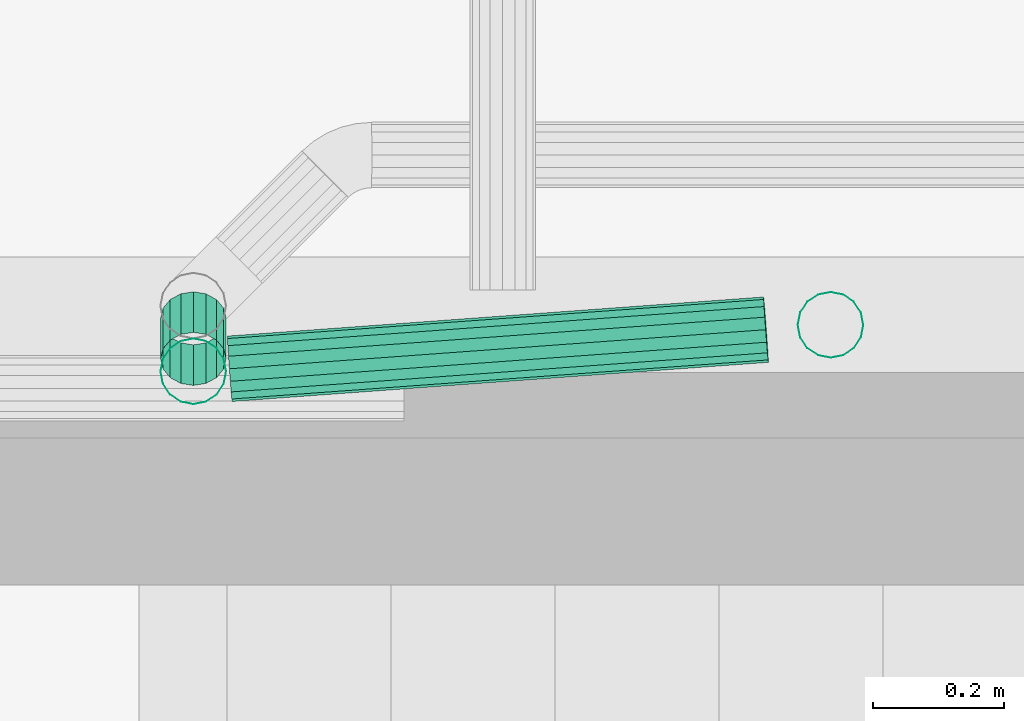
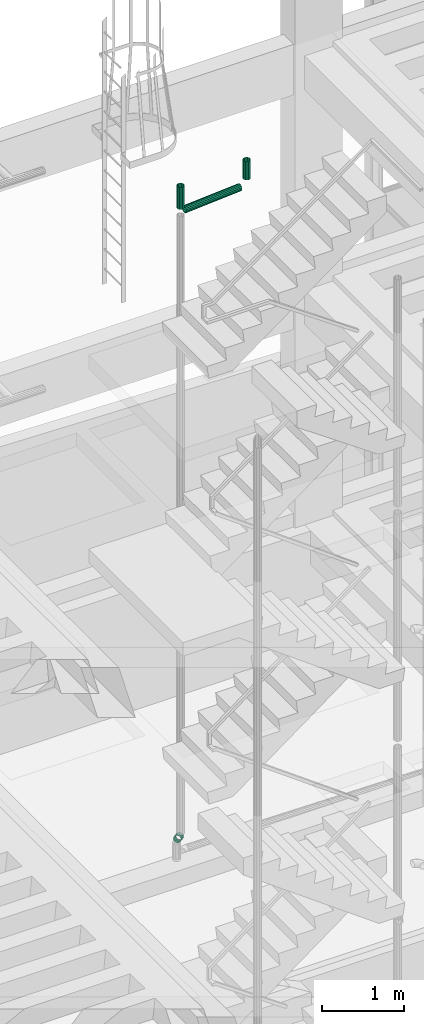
# One storey, part 86 of 108: 4 flow segments.
"""IFC2X3 building model written with IfcOpenShell, lengths in metres."""

from ifc_helpers import new_model, entity, si_unit, converted_unit, derived_unit, money_unit, direction, frame, origin_with_axes, place, context, subcontext, project, spatial, faceted_brep, material, type_object, element, save


model = new_model("IFC2X3")

# Units and contexts
model_context = context("Model", 3, precision=1e-05, world=origin_with_axes(), true_north=direction((0.0, 1.0)))
body_context = subcontext(model_context, "Body", "Model", "MODEL_VIEW", scale=1.0)
ifc_project = project(units=[si_unit("LENGTHUNIT", "METRE"), si_unit("AREAUNIT", "SQUARE_METRE"), si_unit("VOLUMEUNIT", "CUBIC_METRE"), si_unit("ABSORBEDDOSEUNIT", "GRAY"), si_unit("AMOUNTOFSUBSTANCEUNIT", "MOLE"), si_unit("DOSEEQUIVALENTUNIT", "SIEVERT"), si_unit("ELECTRICCAPACITANCEUNIT", "FARAD"), si_unit("ELECTRICCHARGEUNIT", "COULOMB"), si_unit("ELECTRICCONDUCTANCEUNIT", "SIEMENS"), si_unit("ELECTRICCURRENTUNIT", "AMPERE"), si_unit("ELECTRICRESISTANCEUNIT", "OHM"), si_unit("ELECTRICVOLTAGEUNIT", "VOLT"), si_unit("ENERGYUNIT", "JOULE"), si_unit("FORCEUNIT", "NEWTON"), si_unit("FREQUENCYUNIT", "HERTZ"), si_unit("ILLUMINANCEUNIT", "LUX"), si_unit("INDUCTANCEUNIT", "HENRY"), si_unit("LUMINOUSFLUXUNIT", "LUMEN"), si_unit("LUMINOUSINTENSITYUNIT", "CANDELA"), si_unit("MAGNETICFLUXDENSITYUNIT", "TESLA"), si_unit("MAGNETICFLUXUNIT", "WEBER"), si_unit("MASSUNIT", "GRAM"), converted_unit("PLANEANGLEUNIT", "degree", entity("IfcReal", 0.0174532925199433), si_unit("PLANEANGLEUNIT", "RADIAN"), dimensions=[0, 0, 0, 0, 0, 0, 0]), si_unit("POWERUNIT", "WATT"), si_unit("PRESSUREUNIT", "PASCAL"), si_unit("RADIOACTIVITYUNIT", "BECQUEREL"), si_unit("SOLIDANGLEUNIT", "STERADIAN"), si_unit("THERMODYNAMICTEMPERATUREUNIT", "KELVIN"), si_unit("TIMEUNIT", "SECOND"), derived_unit("ACCELERATIONUNIT", [(si_unit("LENGTHUNIT", "METRE"), 1), (si_unit("TIMEUNIT", "SECOND"), -2)]), derived_unit("ANGULARVELOCITYUNIT", [(converted_unit("PLANEANGLEUNIT", "degree", entity("IfcReal", 0.0174532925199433), si_unit("PLANEANGLEUNIT", "RADIAN"), dimensions=[0, 0, 0, 0, 0, 0, 0]), 1), (si_unit("TIMEUNIT", "SECOND"), -1)]), derived_unit("CURVATUREUNIT", [(converted_unit("PLANEANGLEUNIT", "degree", entity("IfcReal", 0.0174532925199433), si_unit("PLANEANGLEUNIT", "RADIAN"), dimensions=[0, 0, 0, 0, 0, 0, 0]), 1), (si_unit("LENGTHUNIT", "METRE"), -1)]), derived_unit("DYNAMICVISCOSITYUNIT", [(si_unit("PRESSUREUNIT", "PASCAL"), 1), (si_unit("TIMEUNIT", "SECOND"), 1)]), derived_unit("HEATFLUXDENSITYUNIT", [(si_unit("POWERUNIT", "WATT"), 1), (si_unit("LENGTHUNIT", "METRE"), -2)]), derived_unit("HEATINGVALUEUNIT", [(si_unit("ENERGYUNIT", "JOULE"), 1), (si_unit("MASSUNIT", "GRAM"), -1)]), derived_unit("INTEGERCOUNTRATEUNIT", [(si_unit("TIMEUNIT", "SECOND"), -1)]), derived_unit("IONCONCENTRATIONUNIT", [(si_unit("MASSUNIT", "GRAM"), 1), (si_unit("VOLUMEUNIT", "CUBIC_METRE"), -1)]), derived_unit("ISOTHERMALMOISTURECAPACITYUNIT", [(si_unit("VOLUMEUNIT", "CUBIC_METRE"), 1), (si_unit("MASSUNIT", "GRAM"), -1)]), derived_unit("KINEMATICVISCOSITYUNIT", [(si_unit("AREAUNIT", "SQUARE_METRE"), 1), (si_unit("TIMEUNIT", "SECOND"), -1)]), derived_unit("LINEARFORCEUNIT", [(si_unit("FORCEUNIT", "NEWTON"), 1), (si_unit("LENGTHUNIT", "METRE"), -1)]), derived_unit("LINEARMOMENTUNIT", [(si_unit("FORCEUNIT", "NEWTON"), 1), (si_unit("LENGTHUNIT", "METRE"), -1)]), derived_unit("LINEARSTIFFNESSUNIT", [(si_unit("FORCEUNIT", "NEWTON"), 1), (si_unit("LENGTHUNIT", "METRE"), -1)]), derived_unit("LINEARVELOCITYUNIT", [(si_unit("LENGTHUNIT", "METRE"), 1), (si_unit("TIMEUNIT", "SECOND"), -1)]), derived_unit("LUMINOUSINTENSITYDISTRIBUTIONUNIT", [(si_unit("LUMINOUSINTENSITYUNIT", "CANDELA"), 1), (si_unit("LUMINOUSFLUXUNIT", "LUMEN"), -1)]), derived_unit("MASSDENSITYUNIT", [(si_unit("MASSUNIT", "GRAM"), 1), (si_unit("VOLUMEUNIT", "CUBIC_METRE"), -1)]), derived_unit("MASSFLOWRATEUNIT", [(si_unit("MASSUNIT", "GRAM"), 1), (si_unit("TIMEUNIT", "SECOND"), -1)]), derived_unit("MASSPERLENGTHUNIT", [(si_unit("MASSUNIT", "GRAM"), 1), (si_unit("LENGTHUNIT", "METRE"), -1)]), derived_unit("MODULUSOFELASTICITYUNIT", [(si_unit("FORCEUNIT", "NEWTON"), 1), (si_unit("AREAUNIT", "SQUARE_METRE"), -1)]), derived_unit("MODULUSOFLINEARSUBGRADEREACTIONUNIT", [(si_unit("FORCEUNIT", "NEWTON"), 1), (si_unit("LENGTHUNIT", "METRE"), -2)]), derived_unit("MODULUSOFROTATIONALSUBGRADEREACTIONUNIT", [(si_unit("FORCEUNIT", "NEWTON"), 1), (si_unit("LENGTHUNIT", "METRE"), 1)]), derived_unit("MODULUSOFSUBGRADEREACTIONUNIT", [(si_unit("FORCEUNIT", "NEWTON"), 1), (si_unit("VOLUMEUNIT", "CUBIC_METRE"), -1)]), derived_unit("MOISTUREDIFFUSIVITYUNIT", [(si_unit("VOLUMEUNIT", "CUBIC_METRE"), 1), (si_unit("TIMEUNIT", "SECOND"), -1)]), derived_unit("MOLECULARWEIGHTUNIT", [(si_unit("MASSUNIT", "GRAM"), 1), (si_unit("AMOUNTOFSUBSTANCEUNIT", "MOLE"), -1)]), derived_unit("PLANARFORCEUNIT", [(si_unit("FORCEUNIT", "NEWTON"), 1), (si_unit("LENGTHUNIT", "METRE"), -2)]), derived_unit("ROTATIONALFREQUENCYUNIT", [(si_unit("TIMEUNIT", "SECOND"), -1)]), derived_unit("ROTATIONALMASSUNIT", [(si_unit("MASSUNIT", "GRAM"), 1), (si_unit("LENGTHUNIT", "METRE"), 2)]), derived_unit("ROTATIONALSTIFFNESSUNIT", [(si_unit("FORCEUNIT", "NEWTON"), 1), (si_unit("LENGTHUNIT", "METRE"), 1), (converted_unit("PLANEANGLEUNIT", "degree", entity("IfcReal", 0.0174532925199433), si_unit("PLANEANGLEUNIT", "RADIAN"), dimensions=[0, 0, 0, 0, 0, 0, 0]), -1)]), derived_unit("SECTIONAREAINTEGRALUNIT", [(si_unit("LENGTHUNIT", "METRE"), 5)]), derived_unit("SECTIONMODULUSUNIT", [(si_unit("LENGTHUNIT", "METRE"), 3)]), derived_unit("SHEARMODULUSUNIT", [(si_unit("FORCEUNIT", "NEWTON"), 1), (si_unit("AREAUNIT", "SQUARE_METRE"), -1)]), derived_unit("SOUNDPOWERUNIT", [(si_unit("ENERGYUNIT", "JOULE"), 1), (si_unit("TIMEUNIT", "SECOND"), -1)]), derived_unit("SPECIFICHEATCAPACITYUNIT", [(si_unit("FORCEUNIT", "NEWTON"), 1), (si_unit("MASSUNIT", "GRAM"), -1), (si_unit("THERMODYNAMICTEMPERATUREUNIT", "KELVIN"), -1)]), derived_unit("TEMPERATUREGRADIENTUNIT", [(si_unit("THERMODYNAMICTEMPERATUREUNIT", "KELVIN"), 1), (si_unit("LENGTHUNIT", "METRE"), -1)]), derived_unit("THERMALADMITTANCEUNIT", [(si_unit("POWERUNIT", "WATT"), 1), (si_unit("AREAUNIT", "SQUARE_METRE"), -1), (si_unit("THERMODYNAMICTEMPERATUREUNIT", "KELVIN"), -1)]), derived_unit("THERMALCONDUCTANCEUNIT", [(si_unit("POWERUNIT", "WATT"), 1), (si_unit("LENGTHUNIT", "METRE"), -1), (si_unit("THERMODYNAMICTEMPERATUREUNIT", "KELVIN"), -1)]), derived_unit("THERMALEXPANSIONCOEFFICIENTUNIT", [(si_unit("THERMODYNAMICTEMPERATUREUNIT", "KELVIN"), -1)]), derived_unit("THERMALRESISTANCEUNIT", [(si_unit("AREAUNIT", "SQUARE_METRE"), 1), (si_unit("POWERUNIT", "WATT"), -1)]), derived_unit("THERMALTRANSMITTANCEUNIT", [(si_unit("POWERUNIT", "WATT"), 1), (si_unit("AREAUNIT", "SQUARE_METRE"), -1), (si_unit("THERMODYNAMICTEMPERATUREUNIT", "KELVIN"), -1)]), derived_unit("TORQUEUNIT", [(si_unit("FORCEUNIT", "NEWTON"), 1), (si_unit("LENGTHUNIT", "METRE"), 1)]), derived_unit("VAPORPERMEABILITYUNIT", [(si_unit("MASSUNIT", "GRAM"), 1), (si_unit("TIMEUNIT", "SECOND"), -1)]), derived_unit("VOLUMETRICFLOWRATEUNIT", [(si_unit("VOLUMEUNIT", "CUBIC_METRE"), 1), (si_unit("TIMEUNIT", "SECOND"), -1)]), derived_unit("WARPINGCONSTANTUNIT", [(si_unit("LENGTHUNIT", "METRE"), 6)]), derived_unit("WARPINGMOMENTUNIT", [(si_unit("FORCEUNIT", "NEWTON"), 1), (si_unit("LENGTHUNIT", "METRE"), 2)]), money_unit("GBP")], contexts=[model_context])

# Site, building, storey
site_placement = place(None, origin_with_axes())
site = spatial("IfcSite", under=ifc_project, at=site_placement, Name="Site", CompositionType="ELEMENT")
building_placement = place(site_placement, origin_with_axes())
building = spatial("IfcBuilding", under=site, at=building_placement, Name="Building01", CompositionType="ELEMENT")
storey_placement = place(building_placement, origin_with_axes())
storey = spatial("IfcBuildingStorey", under=building, at=storey_placement, Name="GF", CompositionType="ELEMENT", Elevation=0.0)

# Flow segments
ifc_material = material(Name="M_BSUK_ColdWater")
pipe_segment_type = type_object("IfcPipeSegmentType", Name="M-BmpStraightpipe-DefaultPipe", PredefinedType="RIGIDSEGMENT")
flow_segment_1_placement = place(storey_placement, frame((13.75, 9.043892, 14.994808), z_axis=(1.0, 0.0, 0.0), x_axis=(0.0, 0.0, -1.0)))
element("IfcFlowSegment", 1, at=flow_segment_1_placement, inside=storey, type_object=pipe_segment_type, material=ifc_material, Name="M-BmpStraightpipe-DefaultPipe", ObjectType="M-BmpStraightpipe-DefaultPipe", context=body_context, shape_type="Brep", body=[
    faceted_brep([(0.272077, 0.0, -0.05), (0.0, 0.0, -0.05), (0.0, 0.019134, -0.046194), (0.272077, 0.019134, -0.046194), (0.0, 0.035355, -0.035355), (0.272077, 0.035355, -0.035355), (0.0, 0.046194, -0.019134), (0.272077, 0.046194, -0.019134), (0.0, 0.05, 0.0), (0.272077, 0.05, 0.0), (0.0, 0.046194, 0.019134), (0.272077, 0.046194, 0.019134), (0.0, 0.035355, 0.035355), (0.272077, 0.035355, 0.035355), (0.0, 0.019134, 0.046194), (0.272077, 0.019134, 0.046194), (0.0, 0.0, 0.05), (0.272077, 0.0, 0.05), (0.0, -0.019134, 0.046194), (0.272077, -0.019134, 0.046194), (0.0, -0.035355, 0.035355), (0.272077, -0.035355, 0.035355), (0.0, -0.046194, 0.019134), (0.272077, -0.046194, 0.019134), (0.0, -0.05, 0.0), (0.272077, -0.05, 0.0), (0.0, -0.046194, -0.019134), (0.272077, -0.046194, -0.019134), (0.0, -0.035355, -0.035355), (0.272077, -0.035355, -0.035355), (0.0, -0.019134, -0.046194), (0.272077, -0.019134, -0.046194)], [[[0, 1, 2, 3]], [[3, 2, 4, 5]], [[5, 4, 6, 7]], [[7, 6, 8, 9]], [[9, 8, 10, 11]], [[11, 10, 12, 13]], [[13, 12, 14, 15]], [[15, 14, 16, 17]], [[17, 16, 18, 19]], [[19, 18, 20, 21]], [[21, 20, 22, 23]], [[23, 22, 24, 25]], [[25, 24, 26, 27]], [[27, 26, 28, 29]], [[29, 28, 30, 31]], [[31, 30, 1, 0]]]),
])
flow_segment_2_placement = place(storey_placement, frame((12.778585, 8.973056, 14.994808), z_axis=(1.0, 0.0, 0.0), x_axis=(0.0, 0.0, -1.0)))
element("IfcFlowSegment", 2, at=flow_segment_2_placement, inside=storey, type_object=pipe_segment_type, material=ifc_material, Name="M-BmpStraightpipe-DefaultPipe", ObjectType="M-BmpStraightpipe-DefaultPipe", context=body_context, shape_type="Brep", body=[
    faceted_brep([(0.327379, 0.0, -0.05), (0.0, 0.0, -0.05), (0.0, 0.019134, -0.046194), (0.327379, 0.019134, -0.046194), (0.0, 0.035355, -0.035355), (0.327379, 0.035355, -0.035355), (0.0, 0.046194, -0.019134), (0.327379, 0.046194, -0.019134), (0.0, 0.05, 0.0), (0.327379, 0.05, 0.0), (0.0, 0.046194, 0.019134), (0.327379, 0.046194, 0.019134), (0.0, 0.035355, 0.035355), (0.327379, 0.035355, 0.035355), (0.0, 0.019134, 0.046194), (0.327379, 0.019134, 0.046194), (0.0, 0.0, 0.05), (0.327379, 0.0, 0.05), (0.0, -0.019134, 0.046194), (0.327379, -0.019134, 0.046194), (0.0, -0.035355, 0.035355), (0.327379, -0.035355, 0.035355), (0.0, -0.046194, 0.019134), (0.327379, -0.046194, 0.019134), (0.0, -0.05, 0.0), (0.327379, -0.05, 0.0), (0.0, -0.046194, -0.019134), (0.327379, -0.046194, -0.019134), (0.0, -0.035355, -0.035355), (0.327379, -0.035355, -0.035355), (0.0, -0.019134, -0.046194), (0.327379, -0.019134, -0.046194)], [[[0, 1, 2, 3]], [[3, 2, 4, 5]], [[5, 4, 6, 7]], [[7, 6, 8, 9]], [[9, 8, 10, 11]], [[11, 10, 12, 13]], [[13, 12, 14, 15]], [[15, 14, 16, 17]], [[17, 16, 18, 19]], [[19, 18, 20, 21]], [[21, 20, 22, 23]], [[23, 22, 24, 25]], [[25, 24, 26, 27]], [[27, 26, 28, 29]], [[29, 28, 30, 31]], [[31, 30, 1, 0]]]),
])
flow_segment_3_placement = place(storey_placement, frame((13.651511, 9.03671, 14.622739), z_axis=(0.07272684, -0.9973519, 0.0), x_axis=(-0.99727399, -0.07272116, -0.01249902)))
element("IfcFlowSegment", 3, at=flow_segment_3_placement, inside=storey, type_object=pipe_segment_type, material=ifc_material, Name="M-BmpStraightpipe-DefaultPipe", ObjectType="M-BmpStraightpipe-DefaultPipe", context=body_context, shape_type="Brep", body=[
    faceted_brep([(0.819683, 0.0, -0.05), (0.0, 0.0, -0.05), (0.0, 0.019134, -0.046194), (0.819683, 0.019134, -0.046194), (0.0, 0.035355, -0.035355), (0.819683, 0.035355, -0.035355), (0.0, 0.046194, -0.019134), (0.819683, 0.046194, -0.019134), (0.0, 0.05, 0.0), (0.819683, 0.05, 0.0), (0.0, 0.046194, 0.019134), (0.819683, 0.046194, 0.019134), (0.0, 0.035355, 0.035355), (0.819683, 0.035355, 0.035355), (0.0, 0.019134, 0.046194), (0.819683, 0.019134, 0.046194), (0.0, 0.0, 0.05), (0.819683, 0.0, 0.05), (0.0, -0.019134, 0.046194), (0.819683, -0.019134, 0.046194), (0.0, -0.035355, 0.035355), (0.819683, -0.035355, 0.035355), (0.0, -0.046194, 0.019134), (0.819683, -0.046194, 0.019134), (0.0, -0.05, 0.0), (0.819683, -0.05, 0.0), (0.0, -0.046194, -0.019134), (0.819683, -0.046194, -0.019134), (0.0, -0.035355, -0.035355), (0.819683, -0.035355, -0.035355), (0.0, -0.019134, -0.046194), (0.819683, -0.019134, -0.046194)], [[[0, 1, 2, 3]], [[3, 2, 4, 5]], [[5, 4, 6, 7]], [[7, 6, 8, 9]], [[9, 8, 10, 11]], [[11, 10, 12, 13]], [[13, 12, 14, 15]], [[15, 14, 16, 17]], [[17, 16, 18, 19]], [[19, 18, 20, 21]], [[21, 20, 22, 23]], [[23, 22, 24, 25]], [[25, 24, 26, 27]], [[27, 26, 28, 29]], [[29, 28, 30, 31]], [[31, 30, 1, 0]]]),
])
flow_segment_4_placement = place(storey_placement, frame((12.778585, 8.992118, 5.298734), z_axis=(1.0, 0.0, 0.0), x_axis=(0.0, 0.58728776, -0.80937821)))
element("IfcFlowSegment", 4, at=flow_segment_4_placement, inside=storey, type_object=pipe_segment_type, material=ifc_material, Name="M-BmpStraightpipe-DefaultPipe", ObjectType="M-BmpStraightpipe-DefaultPipe", context=body_context, shape_type="Brep", body=[
    faceted_brep([(0.105358, 0.0, -0.05), (0.0, 0.0, -0.05), (0.0, 0.019134, -0.046194), (0.105358, 0.019134, -0.046194), (0.0, 0.035355, -0.035355), (0.105358, 0.035355, -0.035355), (0.0, 0.046194, -0.019134), (0.105358, 0.046194, -0.019134), (0.0, 0.05, 0.0), (0.105358, 0.05, 0.0), (0.0, 0.046194, 0.019134), (0.105358, 0.046194, 0.019134), (0.0, 0.035355, 0.035355), (0.105358, 0.035355, 0.035355), (0.0, 0.019134, 0.046194), (0.105358, 0.019134, 0.046194), (0.0, 0.0, 0.05), (0.105358, 0.0, 0.05), (0.0, -0.019134, 0.046194), (0.105358, -0.019134, 0.046194), (0.0, -0.035355, 0.035355), (0.105358, -0.035355, 0.035355), (0.0, -0.046194, 0.019134), (0.105358, -0.046194, 0.019134), (0.0, -0.05, 0.0), (0.105358, -0.05, 0.0), (0.0, -0.046194, -0.019134), (0.105358, -0.046194, -0.019134), (0.0, -0.035355, -0.035355), (0.105358, -0.035355, -0.035355), (0.0, -0.019134, -0.046194), (0.105358, -0.019134, -0.046194)], [[[0, 1, 2, 3]], [[3, 2, 4, 5]], [[5, 4, 6, 7]], [[7, 6, 8, 9]], [[9, 8, 10, 11]], [[11, 10, 12, 13]], [[13, 12, 14, 15]], [[15, 14, 16, 17]], [[17, 16, 18, 19]], [[19, 18, 20, 21]], [[21, 20, 22, 23]], [[23, 22, 24, 25]], [[25, 24, 26, 27]], [[27, 26, 28, 29]], [[29, 28, 30, 31]], [[31, 30, 1, 0]]]),
])

save(model, "model.ifc")
